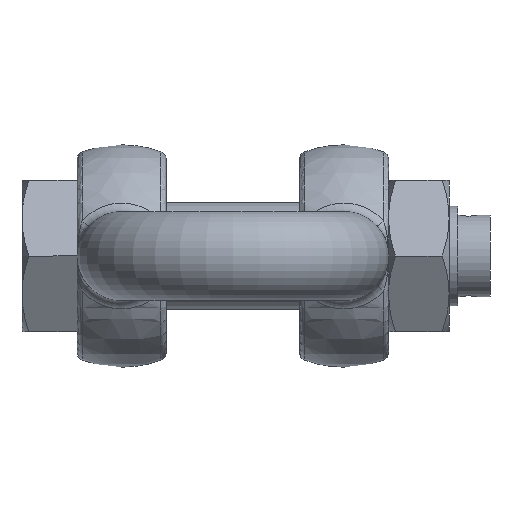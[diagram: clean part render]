
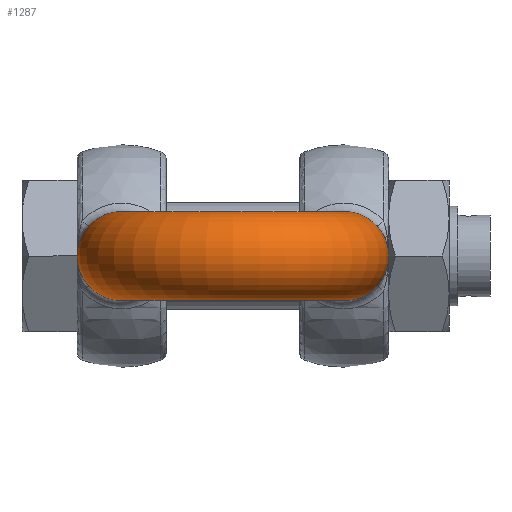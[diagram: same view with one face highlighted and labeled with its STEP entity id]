
A CAD part, front view. The second image highlights one B-rep face of the part: STEP entity #1287.
In plain terms, the highlighted toroidal (fillet/blend) face has major radius 62.5 mm and minor radius 25 mm.
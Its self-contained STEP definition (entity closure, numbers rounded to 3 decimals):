
#123=TOROIDAL_SURFACE('',#1460,62.5,25.);
#234=FACE_OUTER_BOUND('',#323,.T.);
#323=EDGE_LOOP('',(#1029,#1030,#1031,#1032,#1033,#1034));
#486=CIRCLE('',#1458,25.);
#487=CIRCLE('',#1459,25.);
#488=CIRCLE('',#1461,37.5);
#489=CIRCLE('',#1462,25.);
#490=CIRCLE('',#1463,25.);
#579=VERTEX_POINT('',#2922);
#580=VERTEX_POINT('',#2924);
#581=VERTEX_POINT('',#2928);
#582=VERTEX_POINT('',#2930);
#739=EDGE_CURVE('',#579,#580,#486,.T.);
#740=EDGE_CURVE('',#580,#579,#487,.T.);
#741=EDGE_CURVE('',#580,#581,#488,.T.);
#742=EDGE_CURVE('',#581,#582,#489,.T.);
#743=EDGE_CURVE('',#582,#581,#490,.T.);
#1029=ORIENTED_EDGE('',*,*,#740,.F.);
#1030=ORIENTED_EDGE('',*,*,#741,.T.);
#1031=ORIENTED_EDGE('',*,*,#742,.T.);
#1032=ORIENTED_EDGE('',*,*,#743,.T.);
#1033=ORIENTED_EDGE('',*,*,#741,.F.);
#1034=ORIENTED_EDGE('',*,*,#739,.F.);
#1287=ADVANCED_FACE('',(#234),#123,.T.);
#1458=AXIS2_PLACEMENT_3D('',#2925,#1691,#1692);
#1459=AXIS2_PLACEMENT_3D('',#2926,#1693,#1694);
#1460=AXIS2_PLACEMENT_3D('',#2927,#1695,#1696);
#1461=AXIS2_PLACEMENT_3D('',#2929,#1697,#1698);
#1462=AXIS2_PLACEMENT_3D('',#2931,#1699,#1700);
#1463=AXIS2_PLACEMENT_3D('',#2932,#1701,#1702);
#1691=DIRECTION('center_axis',(0.,1.,0.));
#1692=DIRECTION('ref_axis',(1.,0.,0.));
#1693=DIRECTION('center_axis',(0.,1.,0.));
#1694=DIRECTION('ref_axis',(1.,0.,0.));
#1695=DIRECTION('center_axis',(0.,0.,-1.));
#1696=DIRECTION('ref_axis',(-1.,0.,0.));
#1697=DIRECTION('center_axis',(0.,0.,1.));
#1698=DIRECTION('ref_axis',(-1.,0.,0.));
#1699=DIRECTION('center_axis',(0.,-1.,0.));
#1700=DIRECTION('ref_axis',(-1.,0.,0.));
#1701=DIRECTION('center_axis',(0.,-1.,0.));
#1702=DIRECTION('ref_axis',(-1.,0.,0.));
#2922=CARTESIAN_POINT('',(-87.5,87.5,0.));
#2924=CARTESIAN_POINT('',(-37.5,87.5,0.));
#2925=CARTESIAN_POINT('Origin',(-62.5,87.5,0.));
#2926=CARTESIAN_POINT('Origin',(-62.5,87.5,0.));
#2927=CARTESIAN_POINT('Origin',(0.,87.5,0.));
#2928=CARTESIAN_POINT('',(37.5,87.5,0.));
#2929=CARTESIAN_POINT('Origin',(0.,87.5,0.));
#2930=CARTESIAN_POINT('',(87.5,87.5,0.));
#2931=CARTESIAN_POINT('Origin',(62.5,87.5,0.));
#2932=CARTESIAN_POINT('Origin',(62.5,87.5,0.));
